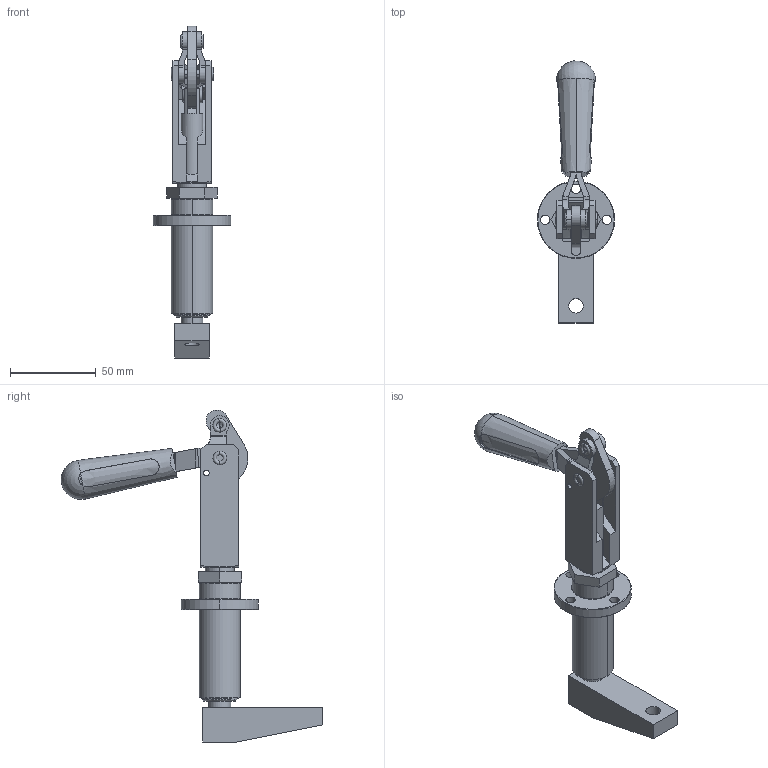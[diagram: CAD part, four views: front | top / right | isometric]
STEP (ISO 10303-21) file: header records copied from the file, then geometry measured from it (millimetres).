
FILE_DESCRIPTION((''),'2;1');
FILE_NAME('001_6004_DESTACO_ASM','2023-03-30T',('SYSTEM'),(''),'PRO/ENGINEER BY PARAMETRIC TECHNOLOGY CORPORATION, 2016360','PRO/ENGINEER BY PARAMETRIC TECHNOLOGY CORPORATION, 2016360','');
FILE_SCHEMA(('AUTOMOTIVE_DESIGN { 1 0 10303 214 1 1 1 1 }'));
Products named in the file (8): 6004006; PISTON_GUIDE; HANDLE; LINK; SHAFT; PISTON; COVER; 001_6004_DESTACO_ASM
Assembly tree (7 placements, depth 2):
  001_6004_DESTACO_ASM
    6004006
    PISTON_GUIDE
    HANDLE
    LINK
    SHAFT
    PISTON
    COVER
Bounding box: 45 x 152.4 x 193.43 mm (x, y, z)
Volume: 110001.6 mm3; surface area: 55544.7 mm2
Topology: 7 solids, 11 shells, 413 faces, 1077 edges, 695 vertices
Faces by surface type: cylinder 158, plane 154, cone 48, torus 33, bspline 10, sphere 10
Entity records: 15536 total; most frequent: CARTESIAN_POINT 4412, DIRECTION 2204, ORIENTED_EDGE 2126, EDGE_CURVE 1063, AXIS2_PLACEMENT_3D 868, VERTEX_POINT 695, EDGE_LOOP 476, VECTOR 468
